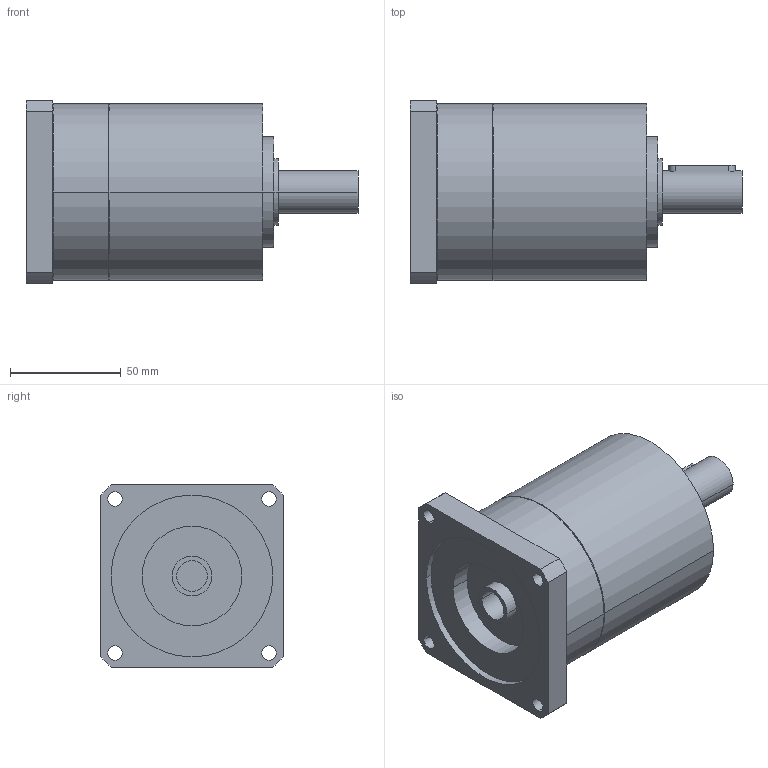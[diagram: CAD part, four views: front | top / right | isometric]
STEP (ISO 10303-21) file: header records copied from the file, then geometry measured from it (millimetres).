
FILE_DESCRIPTION(('CoCreate Modeling STEP Export'),'2;1');
FILE_NAME('GPR100_ig-3-4-5-6_19_B14_14_P05.stp','2014-08-26T10:07:04',(''),(''),'CoCreate Modeling STEP processor for AP214 (Solid Model)','CoCreate Modeling 16.00C 25-Feb-2009 (C) Parametric Technology GmbH','');
FILE_SCHEMA(('AUTOMOTIVE_DESIGN { 1 0 10303 214 1 1 1 1 }'));
Length unit declared in the file: millimetre
Products named in the file (2): GPR100_ig-3-4-5-6_19_B14_14_P05
Assembly tree (1 placements, depth 2):
  GPR100_ig-3-4-5-6_19_B14_14_P05
    GPR100_ig-3-4-5-6_19_B14_14_P05
Bounding box: 150 x 82.5 x 82.5 mm (x, y, z)
Volume: 547065.3 mm3; surface area: 50561.5 mm2
Topology: 1 solids, 1 shells, 70 faces, 187 edges, 131 vertices
Faces by surface type: cylinder 42, plane 22, cone 6
Entity records: 1934 total; most frequent: ORIENTED_EDGE 370, CARTESIAN_POINT 359, DIRECTION 262, EDGE_CURVE 185, VERTEX_POINT 131, AXIS2_PLACEMENT_3D 98, EDGE_LOOP 92, FACE_OUTER_BOUND 70
